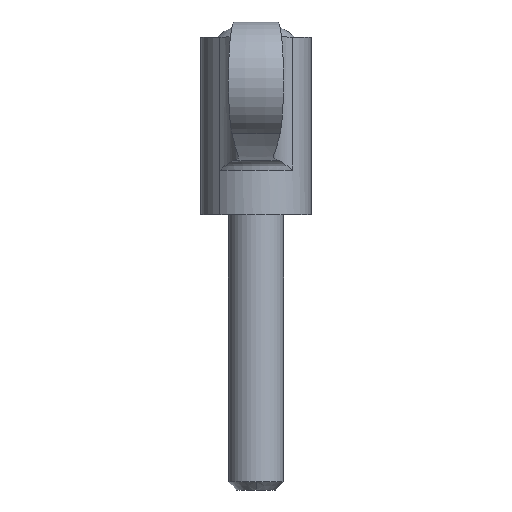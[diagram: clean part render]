
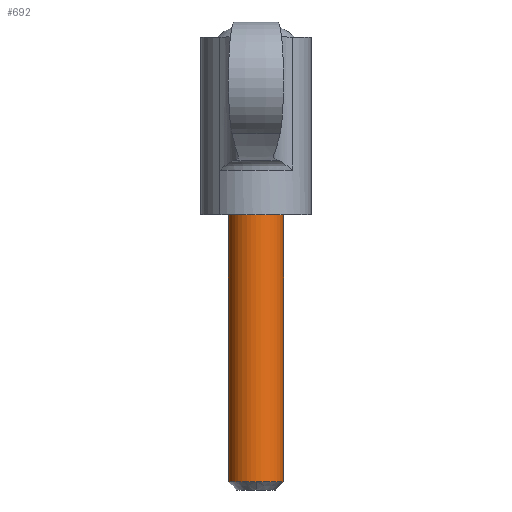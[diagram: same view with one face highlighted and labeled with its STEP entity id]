
A CAD part, left-side view. The second image highlights one B-rep face of the part: STEP entity #692.
In plain terms, the highlighted cylindrical face has radius 4 mm (diameter 8 mm), a partial arc.
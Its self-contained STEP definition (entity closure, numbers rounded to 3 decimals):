
#4 = ORIENTED_EDGE ( 'NONE', *, *, #38, .T. ) ;
#38 = EDGE_CURVE ( 'NONE', #1242, #714, #524, .T. ) ;
#46 = DIRECTION ( 'NONE',  ( 0., 0., 1. ) ) ;
#54 = CARTESIAN_POINT ( 'NONE',  ( 0., 4., -38.8 ) ) ;
#95 = AXIS2_PLACEMENT_3D ( 'NONE', #190, #785, #666 ) ;
#106 = CIRCLE ( 'NONE', #1130, 4. ) ;
#162 = EDGE_CURVE ( 'NONE', #714, #404, #1124, .T. ) ;
#190 = CARTESIAN_POINT ( 'NONE',  ( 0., 0., -38.8 ) ) ;
#201 = ORIENTED_EDGE ( 'NONE', *, *, #1281, .F. ) ;
#286 = CARTESIAN_POINT ( 'NONE',  ( 0., -4., 0. ) ) ;
#402 = VECTOR ( 'NONE', #1254, 1000. ) ;
#404 = VERTEX_POINT ( 'NONE', #286 ) ;
#498 = EDGE_LOOP ( 'NONE', ( #1502, #1512, #4, #573, #201 ) ) ;
#524 = CIRCLE ( 'NONE', #95, 4. ) ;
#572 = CARTESIAN_POINT ( 'NONE',  ( 0., -4., -38.8 ) ) ;
#573 = ORIENTED_EDGE ( 'NONE', *, *, #162, .T. ) ;
#605 = AXIS2_PLACEMENT_3D ( 'NONE', #1339, #696, #1221 ) ;
#666 = DIRECTION ( 'NONE',  ( -1., 0., 0. ) ) ;
#674 = EDGE_CURVE ( 'NONE', #687, #1348, #1319, .T. ) ;
#687 = VERTEX_POINT ( 'NONE', #54 ) ;
#692 = ADVANCED_FACE ( 'NONE', ( #1217 ), #1355, .T. ) ;
#696 = DIRECTION ( 'NONE',  ( 0., 0., 1. ) ) ;
#704 = EDGE_CURVE ( 'NONE', #687, #1242, #1182, .T. ) ;
#714 = VERTEX_POINT ( 'NONE', #572 ) ;
#782 = DIRECTION ( 'NONE',  ( 0., 0., 1. ) ) ;
#785 = DIRECTION ( 'NONE',  ( 0., 0., 1. ) ) ;
#812 = CARTESIAN_POINT ( 'NONE',  ( 0., 0., 0. ) ) ;
#916 = CARTESIAN_POINT ( 'NONE',  ( 0., 4., 0. ) ) ;
#1060 = DIRECTION ( 'NONE',  ( 0., -1., 0. ) ) ;
#1067 = VECTOR ( 'NONE', #46, 1000. ) ;
#1119 = CARTESIAN_POINT ( 'NONE',  ( -4., 0., -38.8 ) ) ;
#1124 = LINE ( 'NONE', #1511, #1067 ) ;
#1130 = AXIS2_PLACEMENT_3D ( 'NONE', #812, #1292, #1060 ) ;
#1131 = CARTESIAN_POINT ( 'NONE',  ( 0., 4., 32.978 ) ) ;
#1156 = AXIS2_PLACEMENT_3D ( 'NONE', #1282, #782, #1321 ) ;
#1182 = CIRCLE ( 'NONE', #605, 4. ) ;
#1217 = FACE_OUTER_BOUND ( 'NONE', #498, .T. ) ;
#1221 = DIRECTION ( 'NONE',  ( -1., 0., 0. ) ) ;
#1242 = VERTEX_POINT ( 'NONE', #1119 ) ;
#1254 = DIRECTION ( 'NONE',  ( 0., 0., 1. ) ) ;
#1281 = EDGE_CURVE ( 'NONE', #1348, #404, #106, .T. ) ;
#1282 = CARTESIAN_POINT ( 'NONE',  ( 0., 0., 32.978 ) ) ;
#1292 = DIRECTION ( 'NONE',  ( 0., 0., 1. ) ) ;
#1319 = LINE ( 'NONE', #1131, #402 ) ;
#1321 = DIRECTION ( 'NONE',  ( 0., -1., 0. ) ) ;
#1339 = CARTESIAN_POINT ( 'NONE',  ( 0., 0., -38.8 ) ) ;
#1348 = VERTEX_POINT ( 'NONE', #916 ) ;
#1355 = CYLINDRICAL_SURFACE ( 'NONE', #1156, 4. ) ;
#1502 = ORIENTED_EDGE ( 'NONE', *, *, #674, .F. ) ;
#1511 = CARTESIAN_POINT ( 'NONE',  ( 0., -4., 32.978 ) ) ;
#1512 = ORIENTED_EDGE ( 'NONE', *, *, #704, .T. ) ;
